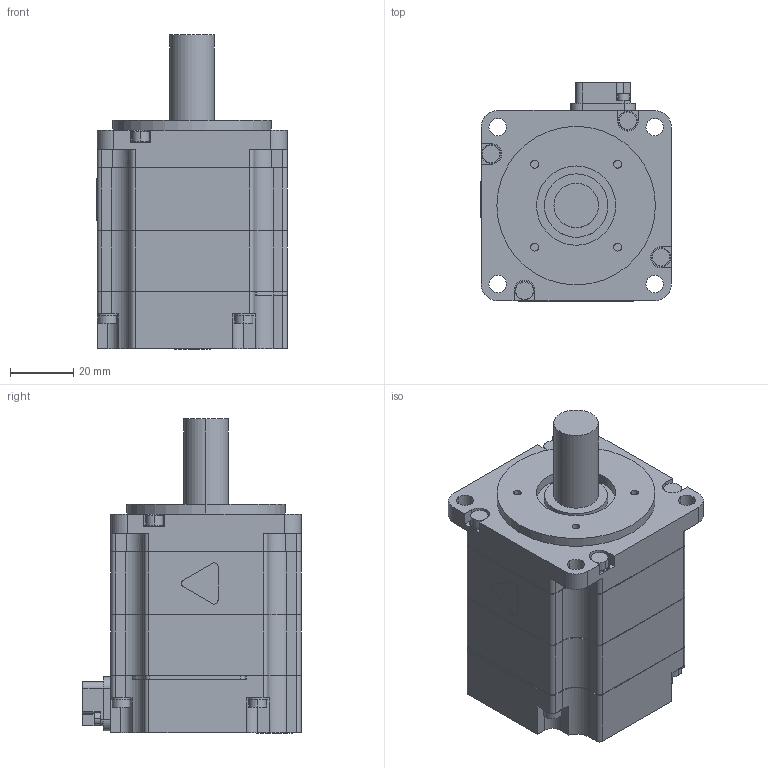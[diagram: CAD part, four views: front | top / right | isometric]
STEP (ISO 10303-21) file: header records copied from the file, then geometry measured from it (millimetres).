
FILE_DESCRIPTION((''),'2;1');
FILE_NAME('SGM7A-02A','2013-11-20T',('shibuya'),('YASKAWA ELECTRIC CORCORATION'),'PRO/ENGINEER BY PARAMETRIC TECHNOLOGY CORPORATION, 2011490','PRO/ENGINEER BY PARAMETRIC TECHNOLOGY CORPORATION, 2011490','');
FILE_SCHEMA(('AUTOMOTIVE_DESIGN { 1 0 10303 214 1 1 1 1 }'));
Length unit declared in the file: millimetre
Products named in the file (1): SGM7A-02A
Bounding box: 60.1 x 68.8 x 99.1 mm (x, y, z)
Volume: 229781.6 mm3; surface area: 27440.1 mm2
Topology: 1 solids, 5 shells, 439 faces, 1144 edges, 758 vertices
Faces by surface type: plane 234, cylinder 205
Entity records: 19062 total; most frequent: DIRECTION 2456, CARTESIAN_POINT 2343, ORIENTED_EDGE 2288, EDGE_CURVE 1144, FILL_AREA_STYLE_COLOUR 878, FILL_AREA_STYLE 878, SURFACE_STYLE_FILL_AREA 878, SURFACE_SIDE_STYLE 878
